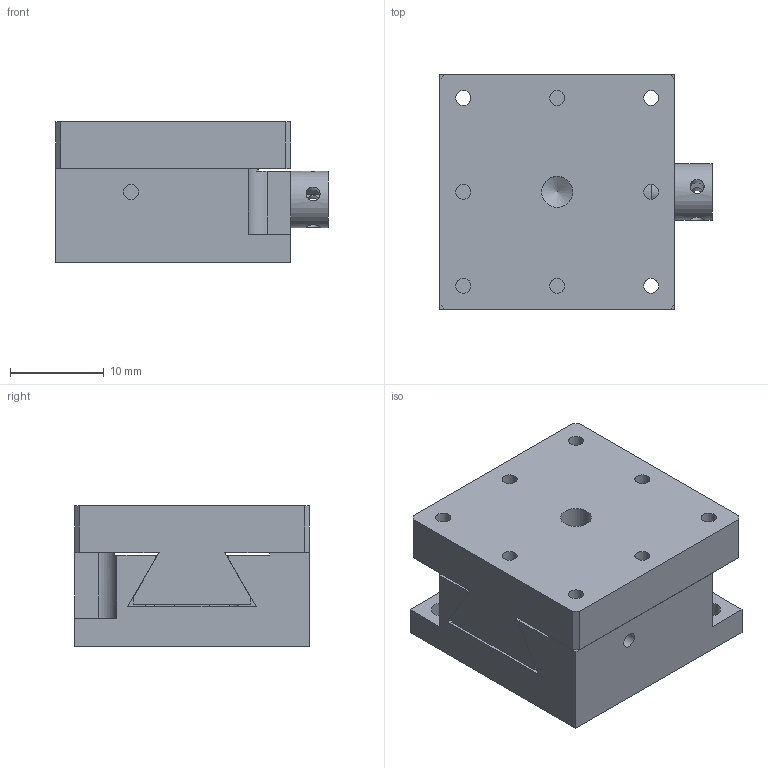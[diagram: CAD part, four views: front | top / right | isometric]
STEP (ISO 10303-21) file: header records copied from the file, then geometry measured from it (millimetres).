
FILE_DESCRIPTION( ( 'STEP AP203' ), '1' );
FILE_NAME( 'C:/Documents and Settings/myamaguc/デスクトップ/確認/3D_BDBXS-25+070424/3D_BDBXS-25+070424.step', '2007-05-07T00:18:08', ( ' ' ), ( ' ' ), 'XStep 1.0', ' ', ' ' );
FILE_SCHEMA( ( 'CONFIG_CONTROL_DESIGN' ) );
Length unit declared in the file: millimetre
Products named in the file (3): 1; 2; 3
Bounding box: 29 x 25 x 15 mm (x, y, z)
Volume: 8005.5 mm3; surface area: 5671.3 mm2
Topology: 3 solids, 3 shells, 112 faces, 306 edges, 204 vertices
Faces by surface type: plane 73, cylinder 37, cone 2
Full cylindrical faces by diameter (mm): 1.5 x4, 1.6 x9, 2 x1, 2.5 x3, 3 x3, 3.3 x2, 6 x2
Entity records: 3716 total; most frequent: CARTESIAN_POINT 780, DIRECTION 568, ORIENTED_EDGE 542, EDGE_CURVE 271, VERTEX_POINT 197, AXIS2_PLACEMENT_3D 193, LINE 182, VECTOR 182
